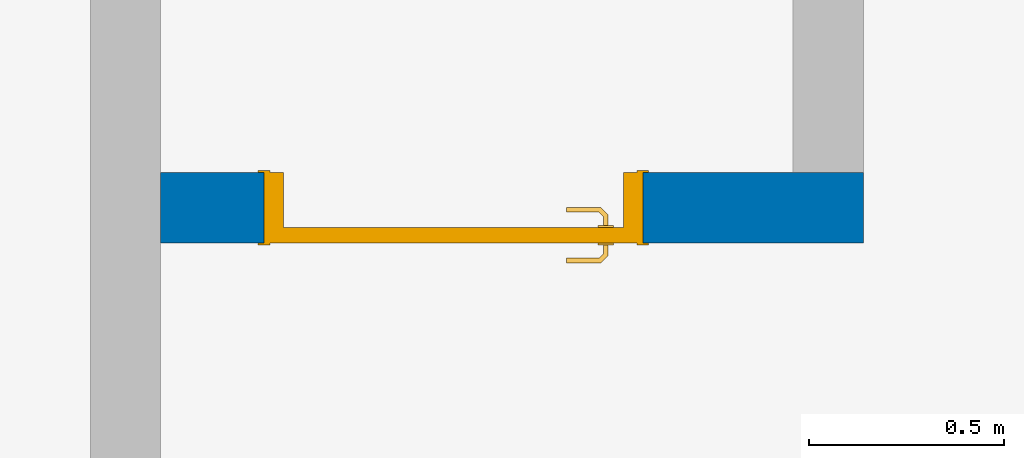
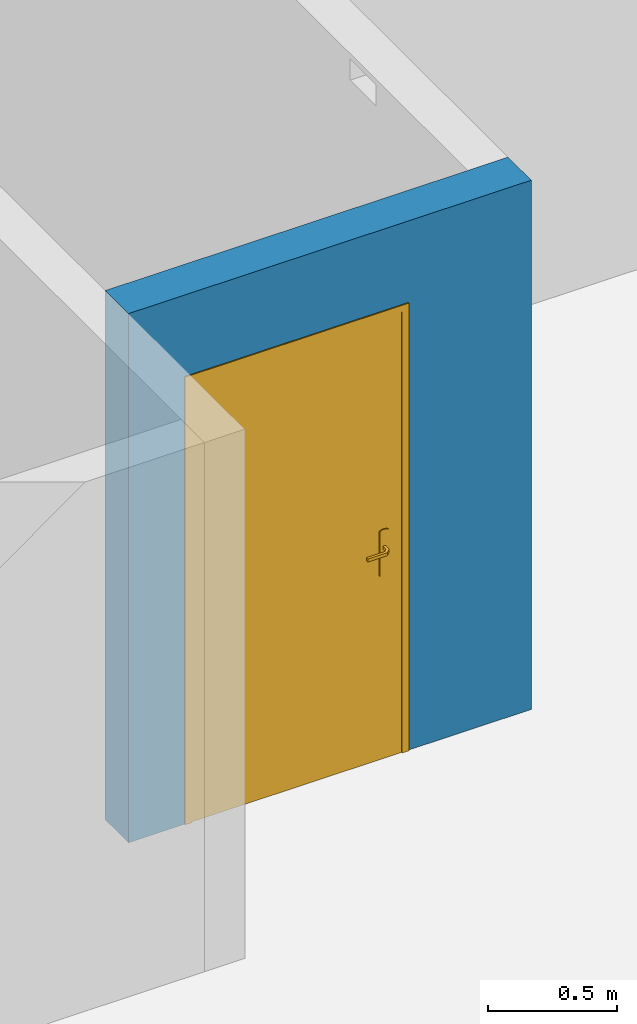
# One storey, part 3 of 28: 1 door, 1 wall, 1 opening.
"""IFC2X3 building model written with IfcOpenShell, lengths in centimetres."""

from ifc_helpers import new_model, entity, si_unit, converted_unit, derived_unit, direction, frame, frame_2d, origin, place, context, subcontext, project, spatial, rectangle, extrude, faceted_brep, source, transform, mapped, material, material_list, layer, layer_set, layer_usage, type_object, type_shapes, element, fill, save


model = new_model("IFC2X3")

# Units and contexts
model_context = context("Model", 3, precision=0.001, world=origin(), true_north=direction((6.12303176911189e-17, 1.0)))
body_context = subcontext(model_context, "Body", "Model", "MODEL_VIEW")
ifc_project = project(units=[si_unit("LENGTHUNIT", "METRE", prefix="CENTI"), si_unit("AREAUNIT", "SQUARE_METRE"), si_unit("VOLUMEUNIT", "CUBIC_METRE"), converted_unit("PLANEANGLEUNIT", "DEGREE", entity("IfcRatioMeasure", 0.0174532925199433), si_unit("PLANEANGLEUNIT", "RADIAN"), dimensions=[0, 0, 0, 0, 0, 0, 0]), si_unit("MASSUNIT", "GRAM", prefix="KILO"), derived_unit("MASSDENSITYUNIT", [(si_unit("MASSUNIT", "GRAM", prefix="KILO"), 1), (si_unit("LENGTHUNIT", "METRE"), -3)]), si_unit("TIMEUNIT", "SECOND"), si_unit("FREQUENCYUNIT", "HERTZ"), si_unit("THERMODYNAMICTEMPERATUREUNIT", "DEGREE_CELSIUS"), derived_unit("THERMALTRANSMITTANCEUNIT", [(si_unit("MASSUNIT", "GRAM", prefix="KILO"), 1), (si_unit("THERMODYNAMICTEMPERATUREUNIT", "KELVIN"), -1), (si_unit("TIMEUNIT", "SECOND"), -3)]), derived_unit("VOLUMETRICFLOWRATEUNIT", [(si_unit("LENGTHUNIT", "METRE"), 3), (si_unit("TIMEUNIT", "SECOND"), -1)]), si_unit("ELECTRICCURRENTUNIT", "AMPERE"), si_unit("ELECTRICVOLTAGEUNIT", "VOLT"), si_unit("POWERUNIT", "WATT"), si_unit("FORCEUNIT", "NEWTON"), si_unit("ILLUMINANCEUNIT", "LUX"), si_unit("LUMINOUSFLUXUNIT", "LUMEN"), si_unit("LUMINOUSINTENSITYUNIT", "CANDELA"), derived_unit("USERDEFINED", [(si_unit("MASSUNIT", "GRAM", prefix="KILO"), -1), (si_unit("LENGTHUNIT", "METRE"), -2), (si_unit("TIMEUNIT", "SECOND"), 3), (si_unit("LUMINOUSFLUXUNIT", "LUMEN"), 1)]), derived_unit("LINEARVELOCITYUNIT", [(si_unit("LENGTHUNIT", "METRE"), 1), (si_unit("TIMEUNIT", "SECOND"), -1)]), si_unit("PRESSUREUNIT", "PASCAL"), derived_unit("USERDEFINED", [(si_unit("LENGTHUNIT", "METRE"), -2), (si_unit("MASSUNIT", "GRAM", prefix="KILO"), 1), (si_unit("TIMEUNIT", "SECOND"), -2)])], contexts=[model_context])

# Site, building, storey
site_placement = place(None, origin())
site = spatial("IfcSite", under=ifc_project, at=site_placement, Name="Default", CompositionType="ELEMENT")
building_placement = place(site_placement, origin())
building = spatial("IfcBuilding", under=site, at=building_placement, Name="CAGE 03", CompositionType="ELEMENT")
storey_placement = place(building_placement, frame((0.0, 0.0, 1420.0)))
storey = spatial("IfcBuildingStorey", under=building, at=storey_placement, Name="R+5", CompositionType="ELEMENT", Elevation=1420.0)

# Wall, opening, door
ifc_material_1 = material(Name="Béton, C25/30")
ifc_layer = layer(ifc_material_1, 18.0)
ifc_layer_set = layer_set([ifc_layer], Name="Mur de base:Voile BA 18")
ifc_layer_usage = layer_usage(ifc_layer_set, "AXIS2", "NEGATIVE", 9.0)
wall_type = type_object("IfcWallType", Name="Mur de base:Voile BA 18", PredefinedType="STANDARD", material=ifc_layer_set)
wall_placement = place(storey_placement, frame((4152.36582014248, 4154.66066607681, 0.0), z_axis=(0.0, 0.0, 1.0), x_axis=(-1.0, 0.0, 0.0)))
wall = element("IfcWallStandardCase", 1, at=wall_placement, inside=storey, type_object=wall_type, material=ifc_layer_usage, Name="Mur de base:Voile BA 18", ObjectType="Mur de base:Voile BA 18", context=body_context, shape_type="SweptSolid", body=[
    extrude(rectangle(XDim=179.999999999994, YDim=17.9999999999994, at=frame_2d((89.9999999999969, -1.02140518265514e-13), x_axis=(-1.0, 0.0))), origin(), (0.0, 0.0, 1.0), 250.0),
])
opening_placement = place(wall_placement, frame((56.4999999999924, -9.0, 0.0)))
opening = element("IfcOpeningElement", 2, at=opening_placement, cuts=wall, Name="Int. Simple:HB93:1", ObjectType="Opening", context=body_context, shape_type="SweptSolid", body=[
    extrude(rectangle(XDim=210.000000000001, YDim=96.9999999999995, at=frame_2d((105.000000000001, 48.4999999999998), x_axis=(1.0, 0.0))), frame((0.0, 0.0, 0.0), z_axis=(0.0, 1.0, 0.0), x_axis=(0.0, 0.0, 1.0)), (0.0, 0.0, 1.0), 18.0),
])
ifc_material_2 = material(Name="Finition Peinture - Blanc satiné")
ifc_material_3 = material(Name="Bois - Panneau de porte")
ifc_material_4 = material(Name="Bois - Cadre de porte")
ifc_material_list_1 = material_list([ifc_material_2, ifc_material_3, ifc_material_4])
ifc_material_list_2 = material_list([ifc_material_2, ifc_material_3, ifc_material_4])
door_style = type_object("IfcDoorStyle", Name="HB93", ConstructionType="NOTDEFINED", OperationType="SINGLE_SWING_RIGHT", ParameterTakesPrecedence=False, Sizeable=False, material=ifc_material_list_2)
shared_shape = source(origin(), body_context, "Body", "Brep", [
    faceted_brep([(96.5000000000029, -0.500000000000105, 87.0), (96.5000000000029, -0.500000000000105, 108.0), (95.535276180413, -0.500000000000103, 108.399601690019), (94.5000000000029, -0.500000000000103, 108.535898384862), (93.4647238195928, -0.500000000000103, 108.399601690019), (92.5000000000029, -0.500000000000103, 108.0), (92.5000000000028, -0.500000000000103, 87.0), (93.4647238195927, -0.500000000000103, 86.6003983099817), (94.5000000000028, -0.500000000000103, 86.464101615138), (95.5352761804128, -0.500000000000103, 86.6003983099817), (96.5000000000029, 0.0, 108.0), (96.5000000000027, 0.0, 87.0), (95.5352761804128, 0.0, 86.6003983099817), (94.5000000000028, 0.0, 86.464101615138), (93.4647238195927, 0.0, 86.6003983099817), (92.5000000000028, 0.0, 87.0), (92.5000000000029, 0.0, 108.0), (93.4647238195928, 0.0, 108.399601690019), (94.5000000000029, 0.0, 108.535898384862), (95.535276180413, 0.0, 108.399601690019)], [[[0, 1, 2, 3, 4, 5, 6, 7, 8, 9]], [[10, 11, 12, 13, 14, 15, 16, 17, 18, 19]], [[9, 12, 11, 0]], [[8, 13, 12, 9]], [[7, 14, 13, 8]], [[7, 6, 15, 14]], [[15, 6, 5, 16]], [[4, 17, 16, 5]], [[3, 18, 17, 4]], [[2, 19, 18, 3]], [[2, 1, 10, 19]], [[11, 10, 1, 0]]]),
    faceted_brep([(96.5000000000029, 4.0, 87.0), (96.5000000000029, 4.0, 108.0), (95.535276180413, 4.0, 108.399601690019), (94.5000000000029, 4.0, 108.535898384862), (93.4647238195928, 4.0, 108.399601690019), (92.500000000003, 4.0, 108.0), (92.5000000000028, 4.0, 87.0), (93.4647238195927, 4.0, 86.6003983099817), (94.5000000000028, 4.0, 86.464101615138), (95.5352761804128, 4.0, 86.6003983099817), (94.5000000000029, 4.49999999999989, 108.535898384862), (95.535276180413, 4.49999999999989, 108.399601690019), (96.5000000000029, 4.49999999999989, 108.0), (96.5000000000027, 4.49999999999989, 87.0), (95.5352761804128, 4.49999999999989, 86.6003983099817), (94.5000000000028, 4.49999999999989, 86.464101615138), (93.4647238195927, 4.49999999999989, 86.6003983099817), (92.5000000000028, 4.4999999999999, 87.0), (92.5000000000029, 4.4999999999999, 108.0), (93.4647238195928, 4.49999999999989, 108.399601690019)], [[[0, 1, 2, 3, 4, 5, 6, 7, 8, 9]], [[10, 11, 12, 13, 14, 15, 16, 17, 18, 19]], [[4, 19, 18, 5]], [[3, 10, 19, 4]], [[2, 11, 10, 3]], [[2, 1, 12, 11]], [[13, 12, 1, 0]], [[9, 14, 13, 0]], [[8, 15, 14, 9]], [[7, 16, 15, 8]], [[7, 6, 17, 16]], [[17, 6, 5, 18]]]),
    faceted_brep([(94.2974701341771, -0.500000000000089, 100.778044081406), (94.7025298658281, -0.500000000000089, 100.778044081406), (95.100000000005, -0.500000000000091, 100.699999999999), (95.100000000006, -0.500000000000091, 99.2999999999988), (94.7025298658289, -0.500000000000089, 99.221955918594), (94.297470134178, -0.500000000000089, 99.2219559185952), (93.9000000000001, -0.500000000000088, 99.3000000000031), (93.9000000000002, -0.500000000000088, 100.7), (94.7025298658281, -3.10045754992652, 100.778044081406), (95.1000000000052, -3.26509507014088, 100.7), (94.2974701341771, -2.93267631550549, 100.778044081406), (92.9298602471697, -4.30028620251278, 100.778044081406), (93.0976414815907, -4.70534593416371, 100.778044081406), (93.9000000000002, -2.76803879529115, 100.7), (93.9000000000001, -2.76803879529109, 99.3000000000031), (94.297470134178, -2.93267631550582, 99.2219559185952), (94.7025298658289, -3.10045754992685, 99.221955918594), (93.0976414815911, -4.70534593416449, 99.221955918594), (92.9298602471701, -4.30028620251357, 99.2219559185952), (95.100000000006, -3.26509507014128, 99.2999999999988), (93.2622790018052, -5.1028160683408, 100.7), (92.7652227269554, -3.90281606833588, 100.7), (92.7652227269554, -3.90281606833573, 99.3000000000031), (93.2622790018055, -5.10281606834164, 99.2999999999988), (84.4981359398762, -5.10281606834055, 100.7), (84.4981359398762, -4.70534593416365, 100.778044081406), (84.4981359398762, -4.30028620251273, 100.778044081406), (84.4981359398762, -3.90281606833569, 100.699999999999), (84.4981359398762, -3.90281606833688, 99.3000000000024), (84.4981359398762, -4.30028620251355, 99.2219559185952), (84.4981359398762, -4.70534593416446, 99.221955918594), (84.4981359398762, -5.10281606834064, 99.2999999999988), (88.7139980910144, -4.5028160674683, 100.78786867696), (89.2692302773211, -5.1028160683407, 100.7), (88.6316793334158, -3.90281606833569, 100.7), (88.631679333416, -3.90281606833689, 99.3000000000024), (88.7139981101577, -4.50281607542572, 99.2121313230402), (89.2692310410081, -5.10281606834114, 99.2999999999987)], [[[0, 1, 2, 3, 4, 5, 6, 7]], [[2, 1, 8, 9]], [[1, 0, 10, 11, 12, 8]], [[0, 7, 13, 10]], [[14, 13, 7, 6]], [[5, 15, 14, 6]], [[5, 4, 16, 17, 18, 15]], [[3, 19, 16, 4]], [[9, 19, 3, 2]], [[9, 8, 12, 20]], [[10, 13, 21, 11]], [[22, 21, 13, 14]], [[14, 15, 18, 22]], [[16, 19, 23, 17]], [[20, 23, 19, 9]], [[24, 25, 26, 27, 28, 29, 30, 31]], [[32, 25, 33]], [[33, 25, 24]], [[33, 20, 12]], [[11, 34, 32]], [[34, 11, 21]], [[27, 26, 34]], [[32, 26, 25]], [[32, 34, 26]], [[32, 33, 12]], [[11, 32, 12]], [[21, 22, 35, 28, 27, 34]], [[36, 29, 35]], [[30, 36, 37]], [[18, 35, 22]], [[29, 28, 35]], [[30, 37, 31]], [[37, 17, 23]], [[36, 17, 37]], [[36, 18, 17]], [[36, 35, 18]], [[29, 36, 30]], [[23, 20, 33, 24, 31, 37]]]),
    faceted_brep([(94.2974701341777, 4.49999999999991, 99.2219559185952), (94.7025298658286, 4.49999999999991, 99.221955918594), (95.1000000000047, 4.49999999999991, 99.2999999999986), (95.1000000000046, 4.49999999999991, 100.7), (94.7025298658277, 4.49999999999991, 100.778044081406), (94.2974701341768, 4.49999999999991, 100.778044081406), (93.8999999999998, 4.49999999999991, 100.7), (93.900000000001, 4.49999999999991, 99.3000000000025), (93.8999999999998, 6.7485204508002, 100.7), (93.8999999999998, 6.74852045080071, 99.3000000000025), (94.2974701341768, 6.91315797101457, 100.778044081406), (94.7025298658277, 7.0809392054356, 100.778044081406), (93.0838906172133, 8.69957845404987, 100.778044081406), (92.9161093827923, 8.29451872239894, 100.778044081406), (95.1000000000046, 7.24557672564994, 100.7), (95.1000000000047, 7.24557672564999, 99.2999999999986), (94.7025298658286, 7.08093920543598, 99.221955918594), (94.2974701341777, 6.91315797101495, 99.2219559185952), (92.9161093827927, 8.29451872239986, 99.2219559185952), (93.0838906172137, 8.69957845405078, 99.221955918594), (92.751471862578, 7.89704858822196, 100.7), (92.7514718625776, 7.89704858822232, 99.3000000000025), (93.2485281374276, 9.09704858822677, 100.7), (93.2485281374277, 9.09704858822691, 99.2999999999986), (84.4954216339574, 8.29451872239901, 100.778044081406), (84.4954216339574, 8.69957845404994, 100.778044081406), (84.4954216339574, 9.09704858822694, 100.7), (84.4954216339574, 9.09704858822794, 99.2999999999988), (84.4954216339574, 8.6995784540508, 99.221955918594), (84.4954216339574, 8.29451872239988, 99.2219559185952), (84.4954216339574, 7.89704858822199, 99.3000000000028), (84.4954216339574, 7.89704858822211, 100.7), (88.6234467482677, 7.89704858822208, 100.7), (88.6234479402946, 7.89704858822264, 99.3000000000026), (88.7057655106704, 8.49704858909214, 100.78786867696), (89.255479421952, 9.09704858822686, 100.7), (89.2554795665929, 9.09704858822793, 99.2999999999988), (88.7057654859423, 8.49704858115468, 99.2121313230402)], [[[0, 1, 2, 3, 4, 5, 6, 7]], [[8, 9, 7, 6]], [[5, 10, 8, 6]], [[5, 4, 11, 12, 13, 10]], [[3, 14, 11, 4]], [[14, 3, 2, 15]], [[2, 1, 16, 15]], [[1, 0, 17, 18, 19, 16]], [[0, 7, 9, 17]], [[20, 21, 9, 8]], [[8, 10, 13, 20]], [[14, 22, 12, 11]], [[23, 22, 14, 15]], [[15, 16, 19, 23]], [[17, 9, 21, 18]], [[24, 25, 26, 27, 28, 29, 30, 31]], [[21, 20, 32, 31, 30, 33]], [[34, 24, 32]], [[25, 34, 35]], [[13, 32, 20]], [[24, 31, 32]], [[25, 35, 26]], [[35, 12, 22]], [[34, 12, 35]], [[34, 13, 12]], [[34, 32, 13]], [[24, 34, 25]], [[22, 23, 36, 27, 26, 35]], [[37, 28, 36]], [[36, 28, 27]], [[36, 23, 19]], [[18, 33, 37]], [[33, 18, 21]], [[30, 29, 33]], [[37, 29, 28]], [[37, 33, 29]], [[37, 36, 19]], [[18, 37, 19]]]),
    faceted_brep([(100.500000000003, 4.0, 206.5), (100.500000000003, 4.0, 0.0), (10.5000000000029, 4.0, 0.0), (10.5000000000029, 4.0, 206.5), (100.500000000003, 0.0, 206.5), (10.5000000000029, 0.0, 206.5), (10.5000000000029, 0.0, 0.0), (100.500000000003, 0.0, 0.0)], [[[0, 1, 2, 3]], [[4, 5, 6, 7]], [[3, 5, 4, 0]], [[2, 6, 5, 3]], [[1, 7, 6, 2]], [[0, 4, 7, 1]]]),
    faceted_brep([(104.0, 0.0, 0.0), (100.500000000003, 0.0, 0.0), (100.500000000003, 4.0, 0.0), (99.0, 4.0, 0.0), (99.0, 18.0, 0.0), (104.0, 18.0, 0.0), (104.0, 18.0, 210.0), (104.0, 0.0, 210.0), (99.0, 18.0, 205.0), (12.0, 18.0, 205.0), (12.0, 18.0, 0.0), (7.0, 18.0, 0.0), (7.0, 18.0, 210.0), (99.0, 4.0, 205.0), (100.500000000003, 4.0, 206.5), (10.5000000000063, 4.0, 206.5), (10.5000000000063, 4.0, 0.0), (12.0, 4.0, 0.0), (12.0, 4.0, 205.0), (100.500000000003, 0.0, 206.5), (7.0, 0.0, 210.0), (7.0, 0.0, 0.0), (10.5000000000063, 0.0, 0.0), (10.5000000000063, 0.0, 206.5)], [[[0, 1, 2, 3, 4, 5]], [[5, 6, 7, 0]], [[4, 8, 9, 10, 11, 12, 6, 5]], [[3, 13, 8, 4]], [[2, 14, 15, 16, 17, 18, 13, 3]], [[1, 19, 14, 2]], [[0, 7, 20, 21, 22, 23, 19, 1]], [[12, 11, 21, 20]], [[21, 11, 10, 17, 16, 22]], [[18, 17, 10, 9]], [[23, 22, 16, 15]], [[6, 12, 20, 7]], [[13, 18, 9, 8]], [[19, 23, 15, 14]]]),
    faceted_brep([(102.500000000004, 18.0, 0.0), (102.500000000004, 18.5000000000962, 0.0), (105.500000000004, 18.5000000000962, 0.0), (105.500000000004, 18.0, 0.0), (105.500000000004, 18.0, 211.500000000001), (5.50000000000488, 18.0, 211.500000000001), (5.50000000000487, 18.0, 0.0), (8.50000000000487, 18.0, 0.0), (8.50000000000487, 18.0, 208.500000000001), (102.500000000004, 18.0, 208.500000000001), (105.500000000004, 18.5000000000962, 211.500000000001), (102.500000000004, 18.5000000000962, 208.500000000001), (8.50000000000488, 18.5000000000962, 208.500000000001), (8.50000000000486, 18.5000000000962, 0.0), (5.50000000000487, 18.5000000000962, 0.0), (5.50000000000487, 18.5000000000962, 211.500000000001)], [[[0, 1, 2, 3]], [[3, 4, 5, 6, 7, 8, 9, 0]], [[2, 10, 4, 3]], [[1, 11, 12, 13, 14, 15, 10, 2]], [[0, 9, 11, 1]], [[7, 6, 14, 13]], [[8, 7, 13, 12]], [[15, 14, 6, 5]], [[10, 15, 5, 4]], [[9, 8, 12, 11]]]),
    faceted_brep([(105.500000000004, -0.5, 0.0), (105.500000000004, -0.5, 211.500000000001), (5.50000000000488, -0.5, 211.500000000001), (5.50000000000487, -0.5, 0.0), (8.50000000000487, -0.5, 0.0), (8.50000000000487, -0.5, 208.500000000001), (102.500000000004, -0.5, 208.500000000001), (102.500000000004, -0.5, 0.0), (105.500000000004, 0.0, 0.0), (105.500000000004, 0.0, 211.500000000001), (102.500000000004, 0.0, 0.0), (102.500000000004, 0.0, 208.500000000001), (8.50000000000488, 0.0, 208.500000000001), (8.50000000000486, 0.0, 0.0), (5.50000000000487, 0.0, 0.0), (5.50000000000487, 0.0, 211.500000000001)], [[[0, 1, 2, 3, 4, 5, 6, 7]], [[8, 9, 1, 0]], [[10, 11, 12, 13, 14, 15, 9, 8]], [[7, 6, 11, 10]], [[5, 4, 13, 12]], [[15, 14, 3, 2]], [[9, 15, 2, 1]], [[6, 5, 12, 11]], [[4, 3, 14, 13]], [[7, 10, 8, 0]]]),
])
type_shapes(door_style, [shared_shape])
door_placement = place(opening_placement, frame((104.0, 18.0, 0.0), z_axis=(0.0, 0.0, 1.0), x_axis=(-1.0, 0.0, 0.0)))
door = element("IfcDoor", 3, at=door_placement, inside=storey, type_object=door_style, material=ifc_material_list_1, Name="Int. Simple:HB93", ObjectType="HB93", OverallHeight=210.000000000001, OverallWidth=96.9999999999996, context=body_context, shape_type="MappedRepresentation", body=[
    mapped(shared_shape, transform((0.0, 0.0, 0.0), scale=1.0)),
])
fill(opening, door)

save(model, "model.ifc")
